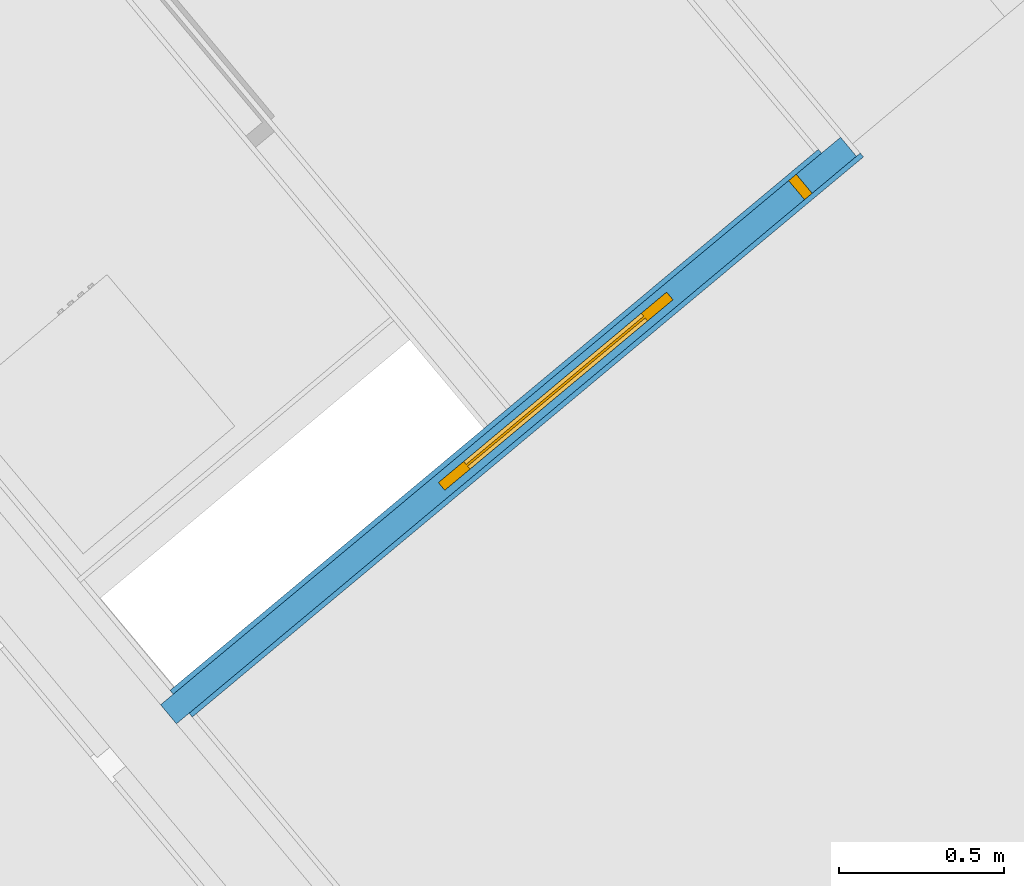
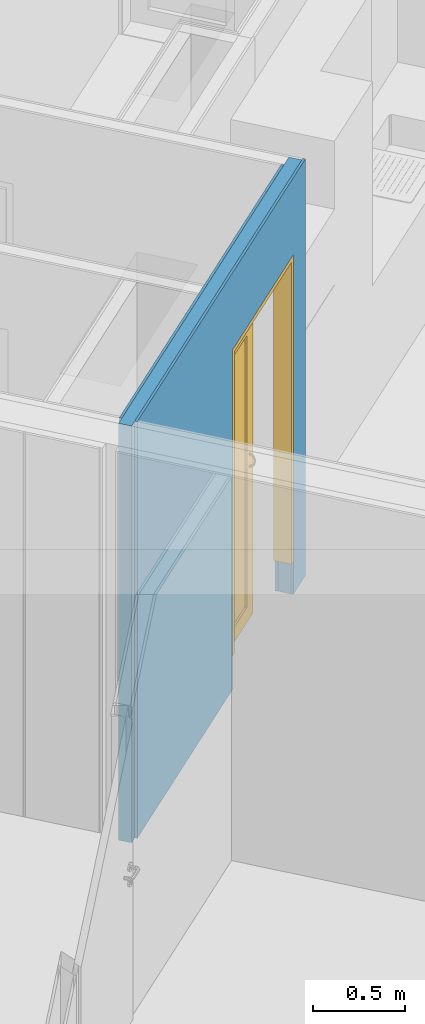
# One storey, part 11 of 50: 3 building element parts, 1 door, 1 opening, 1 element without a shape of its own.
"""IFC4 building model written with IfcOpenShell, lengths in metres."""

from ifc_helpers import new_model, entity, si_unit, converted_unit, derived_unit, direction, frame, origin_with_axes, place, context, subcontext, project, spatial, polygons, source, transform, mapped, material, type_object, element, fill, aggregate, save


model = new_model("IFC4")

# Units and contexts
model_context = context("Model", 3, precision=1e-05, world=origin_with_axes(), true_north=direction((0.0, 1.0)))
body_context = subcontext(model_context, "Body", "Model", "MODEL_VIEW")
ifc_project = project(units=[si_unit("LENGTHUNIT", "METRE"), si_unit("AREAUNIT", "SQUARE_METRE"), si_unit("VOLUMEUNIT", "CUBIC_METRE"), converted_unit("PLANEANGLEUNIT", "DEGREE", entity("IfcPlaneAngleMeasure", 0.0174532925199), si_unit("PLANEANGLEUNIT", "RADIAN"), dimensions=[0, 0, 0, 0, 0, 0, 0]), converted_unit("TIMEUNIT", "Year", entity("IfcTimeMeasure", 31556926.0), si_unit("TIMEUNIT", "SECOND"), dimensions=[0, 0, 1, 0, 0, 0, 0]), si_unit("MASSUNIT", "GRAM", prefix="KILO"), si_unit("THERMODYNAMICTEMPERATUREUNIT", "DEGREE_CELSIUS"), si_unit("LUMINOUSINTENSITYUNIT", "LUMEN"), si_unit("ENERGYUNIT", "JOULE", prefix="MEGA"), derived_unit("THERMALCONDUCTANCEUNIT", [(si_unit("POWERUNIT", "WATT"), 1), (si_unit("LENGTHUNIT", "METRE"), -1), (si_unit("THERMODYNAMICTEMPERATUREUNIT", "KELVIN"), -1)]), derived_unit("SPECIFICHEATCAPACITYUNIT", [(si_unit("ENERGYUNIT", "JOULE"), 1), (si_unit("MASSUNIT", "GRAM", prefix="KILO"), -1), (si_unit("THERMODYNAMICTEMPERATUREUNIT", "KELVIN"), -1)]), derived_unit("MASSDENSITYUNIT", [(si_unit("MASSUNIT", "GRAM", prefix="KILO"), 1), (si_unit("VOLUMEUNIT", "CUBIC_METRE"), -1)])], contexts=[model_context])

# Site, building, storey
site_placement = place(None, frame((-0.00153261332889, -0.00661245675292, 0.0), z_axis=(0.0, 0.0, 1.0), x_axis=(1.0, 0.0, 0.0)))
site = spatial("IfcSite", under=ifc_project, at=site_placement, Name="Site", CompositionType="ELEMENT")
building_placement = place(site_placement, origin_with_axes())
building = spatial("IfcBuilding", under=site, at=building_placement, Name="Building", CompositionType="ELEMENT")
storey_placement = place(building_placement, frame((0.0, 0.0, 2.74), z_axis=(0.0, 0.0, 1.0), x_axis=(1.0, 0.0, 0.0)))
storey = spatial("IfcBuildingStorey", under=building, at=storey_placement, Name="OG1", CompositionType="ELEMENT", Elevation=2.74)

# Door
door_type = type_object("IfcDoorType", Name="Schiebetür 02 1-Fl 26", OperationType="SLIDING_TO_RIGHT", PredefinedType="NOTDEFINED")
shared_shape = source(origin_with_axes(), body_context, "Body", "Tessellation", [
    polygons([(-0.48, 0.0, 0.0), (-0.48, 0.0, 2.03), (0.48, 0.0, 2.03), (0.48, 0.0, 0.0), (0.45, 0.0, 0.0), (0.45, 0.0, 2.0), (-0.45, 0.0, 2.0), (-0.45, 0.0, 0.0)], [[[1, 2, 3, 4, 5, 6, 7, 8]]], closed=False),
    polygons([(-0.45, -0.09, 0.0), (-0.45, -0.09, 2.0), (-0.45, -0.105, 2.0), (-0.45, -0.105, 0.0), (-0.48, -0.09, 0.0), (-0.48, -0.09, 2.0), (-0.48, -0.015, 2.0), (-0.45, -0.015, 2.0), (-0.45, 0.0, 2.0), (0.45, 0.0, 2.0), (0.45, -0.105, 2.0), (0.48, -0.105, 0.0), (0.48, -0.105, 2.03), (-0.48, -0.105, 2.03), (-0.48, -0.105, 0.0), (0.45, -0.105, 0.0), (-0.48, 0.0, 2.03), (-0.48, 0.0, 0.0), (-0.48, -0.015, 0.0), (-0.45, -0.015, 0.0), (-0.45, 0.0, 0.0), (0.48, 0.0, 2.03), (0.48, 0.0, 0.0), (0.45, 0.0, 0.0)], [[[1, 2, 3, 4]], [[2, 1, 5, 6]], [[2, 6, 7, 8, 9, 10, 11, 3]], [[12, 13, 14, 15, 4, 3, 11, 16]], [[5, 1, 4, 15]], [[6, 5, 15, 14, 17, 18, 19, 7]], [[20, 8, 7, 19]], [[8, 20, 21, 9]], [[10, 9, 21, 18, 17, 22, 23, 24]], [[24, 16, 11, 10]], [[22, 13, 12, 23]], [[17, 14, 13, 22]], [[23, 12, 16, 24]], [[20, 19, 18, 21]]], closed=True),
    polygons([(-0.48, -0.105, 0.0), (-0.48, -0.105, 2.03), (0.48, -0.105, 2.03), (0.48, -0.105, 0.0), (0.45, -0.105, 0.0), (0.45, -0.105, 2.0), (-0.45, -0.105, 2.0), (-0.45, -0.105, 0.0)], [[[1, 2, 3, 4, 5, 6, 7, 8]]], closed=False),
    polygons([(-0.94995, -0.0375, 0.1), (-0.84995, -0.0375, 0.1), (-0.84995, -0.0675, 0.1), (-0.94995, -0.0675, 0.1), (-0.94995, -0.0375, 1.8999), (-0.84995, -0.0375, 1.8999), (-0.84995, -0.0675, 1.8999), (-0.94995, -0.0675, 1.8999)], [[[1, 2, 3, 4]], [[1, 5, 6, 2]], [[2, 6, 7, 3]], [[4, 3, 7, 8]], [[5, 1, 4, 8]], [[6, 5, 8, 7]]], closed=True),
    polygons([(-0.05005, -0.0375, 1.8999), (-0.15005, -0.0375, 1.8999), (-0.15005, -0.0675, 1.8999), (-0.05005, -0.0675, 1.8999), (-0.05005, -0.0375, 0.1), (-0.15005, -0.0375, 0.1), (-0.15005, -0.0675, 0.1), (-0.05005, -0.0675, 0.1)], [[[1, 2, 3, 4]], [[1, 5, 6, 2]], [[2, 6, 7, 3]], [[4, 3, 7, 8]], [[5, 1, 4, 8]], [[6, 5, 8, 7]]], closed=True),
    polygons([(-0.05005, -0.0375, 0.0), (-0.05005, -0.0375, 0.1), (-0.05005, -0.0675, 0.1), (-0.05005, -0.0675, 0.0), (-0.94995, -0.0375, 0.0), (-0.94995, -0.0375, 0.1), (-0.84995, -0.0375, 0.1), (-0.15005, -0.0375, 0.1), (-0.15005, -0.0675, 0.1), (-0.84995, -0.0675, 0.1), (-0.94995, -0.0675, 0.1), (-0.94995, -0.0675, 0.0)], [[[1, 2, 3, 4]], [[1, 5, 6, 7, 8, 2]], [[2, 8, 9, 3]], [[4, 3, 9, 10, 11, 12]], [[5, 1, 4, 12]], [[6, 5, 12, 11]], [[7, 6, 11, 10]], [[8, 7, 10, 9]]], closed=True),
    polygons([(-0.94995, -0.0375, 1.9999), (-0.94995, -0.0375, 1.8999), (-0.94995, -0.0675, 1.8999), (-0.94995, -0.0675, 1.9999), (-0.05005, -0.0375, 1.9999), (-0.05005, -0.0375, 1.8999), (-0.15005, -0.0375, 1.8999), (-0.84995, -0.0375, 1.8999), (-0.84995, -0.0675, 1.8999), (-0.15005, -0.0675, 1.8999), (-0.05005, -0.0675, 1.8999), (-0.05005, -0.0675, 1.9999)], [[[1, 2, 3, 4]], [[1, 5, 6, 7, 8, 2]], [[2, 8, 9, 3]], [[4, 3, 9, 10, 11, 12]], [[5, 1, 4, 12]], [[6, 5, 12, 11]], [[7, 6, 11, 10]], [[8, 7, 10, 9]]], closed=True),
    polygons([(-0.84995, -0.049, 0.1), (-0.15005, -0.049, 0.1), (-0.15005, -0.056, 0.1), (-0.84995, -0.056, 0.1), (-0.84995, -0.049, 1.8999), (-0.15005, -0.049, 1.8999), (-0.15005, -0.056, 1.8999), (-0.84995, -0.056, 1.8999)], [[[1, 2, 3, 4]], [[1, 5, 6, 2]], [[2, 6, 7, 3]], [[4, 3, 7, 8]], [[5, 1, 4, 8]], [[6, 5, 8, 7]]], closed=True),
    polygons([(-0.11705, -0.0825, 1.08598076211), (-0.116112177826, -0.08425, 1.08901185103), (-0.116112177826, -0.0675, 1.0935), (-0.11705, -0.0675, 1.09), (-0.11705, -0.0934807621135, 1.075), (-0.116112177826, -0.0965118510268, 1.07675), (-0.11355, -0.0855310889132, 1.09123076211), (-0.11355, -0.0675, 1.09606217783), (-0.11005, -0.0675, 1.097), (-0.10655, -0.0675, 1.09606217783), (-0.103987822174, -0.0675, 1.0935), (-0.10305, -0.0675, 1.09), (-0.103987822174, -0.0675, 1.0865), (-0.10655, -0.0675, 1.08393782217), (-0.11005, -0.0675, 1.083), (-0.11355, -0.0675, 1.08393782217), (-0.116112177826, -0.0675, 1.0865), (-0.116112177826, -0.08075, 1.0829496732), (-0.11705, -0.0975, 1.06), (-0.116112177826, -0.101, 1.06), (-0.11355, -0.0987307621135, 1.07803108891), (-0.116112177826, -0.0904496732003, 1.07325), (-0.11005, -0.086, 1.09204293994), (-0.10655, -0.0855310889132, 1.09123076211), (-0.103987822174, -0.08425, 1.08901185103), (-0.10305, -0.0825, 1.08598076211), (-0.103987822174, -0.08075, 1.0829496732), (-0.10655, -0.0794689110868, 1.08073076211), (-0.11005, -0.079, 1.07991858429), (-0.11355, -0.0794689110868, 1.08073076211), (-0.116112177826, -0.094, 1.06), (-0.11355, -0.0914378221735, 1.06), (-0.11005, -0.0905, 1.06), (-0.10655, -0.0914378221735, 1.06), (-0.103987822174, -0.094, 1.06), (-0.10305, -0.0975, 1.06), (-0.103987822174, -0.101, 1.06), (-0.10655, -0.103562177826, 1.06), (-0.11005, -0.1045, 1.06), (-0.11355, -0.103562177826, 1.06), (-0.11005, -0.09954293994, 1.0785), (-0.11355, -0.0882307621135, 1.07196891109), (-0.10655, -0.0987307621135, 1.07803108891), (-0.103987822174, -0.0965118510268, 1.07675), (-0.10305, -0.0934807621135, 1.075), (-0.103987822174, -0.0904496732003, 1.07325), (-0.10655, -0.0882307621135, 1.07196891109), (-0.11005, -0.087418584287, 1.0715)], [[[1, 2, 3, 4]], [[5, 6, 2, 1]], [[2, 7, 8, 3]], [[4, 3, 8, 9, 10, 11, 12, 13, 14, 15, 16, 17]], [[18, 1, 4, 17]], [[19, 20, 6, 5]], [[6, 21, 7, 2]], [[22, 5, 1, 18]], [[7, 23, 9, 8]], [[23, 24, 10, 9]], [[24, 25, 11, 10]], [[25, 26, 12, 11]], [[26, 27, 13, 12]], [[27, 28, 14, 13]], [[28, 29, 15, 14]], [[29, 30, 16, 15]], [[30, 18, 17, 16]], [[19, 31, 32, 33, 34, 35, 36, 37, 38, 39, 40, 20]], [[20, 40, 21, 6]], [[31, 19, 5, 22]], [[21, 41, 23, 7]], [[42, 22, 18, 30]], [[41, 43, 24, 23]], [[43, 44, 25, 24]], [[44, 45, 26, 25]], [[45, 46, 27, 26]], [[46, 47, 28, 27]], [[47, 48, 29, 28]], [[48, 42, 30, 29]], [[32, 31, 22, 42]], [[33, 32, 42, 48]], [[34, 33, 48, 47]], [[35, 34, 47, 46]], [[36, 35, 46, 45]], [[37, 36, 45, 44]], [[38, 37, 44, 43]], [[39, 38, 43, 41]], [[40, 39, 41, 21]]], closed=True),
    polygons([(-0.10305, -0.0825, 1.01401923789), (-0.103987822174, -0.08425, 1.01098814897), (-0.103987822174, -0.0675, 1.0065), (-0.10305, -0.0675, 1.01), (-0.10305, -0.0934807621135, 1.025), (-0.103987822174, -0.0965118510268, 1.02325), (-0.10655, -0.0855310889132, 1.00876923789), (-0.10655, -0.0675, 1.00393782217), (-0.11005, -0.0675, 1.003), (-0.11355, -0.0675, 1.00393782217), (-0.116112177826, -0.0675, 1.0065), (-0.11705, -0.0675, 1.01), (-0.116112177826, -0.0675, 1.0135), (-0.11355, -0.0675, 1.01606217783), (-0.11005, -0.0675, 1.017), (-0.10655, -0.0675, 1.01606217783), (-0.103987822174, -0.0675, 1.0135), (-0.103987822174, -0.08075, 1.0170503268), (-0.10305, -0.0975, 1.04), (-0.103987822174, -0.101, 1.04), (-0.10655, -0.0987307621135, 1.02196891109), (-0.103987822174, -0.0904496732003, 1.02675), (-0.11005, -0.086, 1.00795706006), (-0.11355, -0.0855310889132, 1.00876923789), (-0.116112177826, -0.08425, 1.01098814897), (-0.11705, -0.0825, 1.01401923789), (-0.116112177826, -0.08075, 1.0170503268), (-0.11355, -0.0794689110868, 1.01926923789), (-0.11005, -0.079, 1.02008141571), (-0.10655, -0.0794689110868, 1.01926923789), (-0.103987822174, -0.094, 1.04), (-0.10655, -0.0914378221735, 1.04), (-0.11005, -0.0905, 1.04), (-0.11355, -0.0914378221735, 1.04), (-0.116112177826, -0.094, 1.04), (-0.11705, -0.0975, 1.04), (-0.116112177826, -0.101, 1.04), (-0.11355, -0.103562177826, 1.04), (-0.11005, -0.1045, 1.04), (-0.10655, -0.103562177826, 1.04), (-0.11005, -0.09954293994, 1.0215), (-0.10655, -0.0882307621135, 1.02803108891), (-0.11355, -0.0987307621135, 1.02196891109), (-0.116112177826, -0.0965118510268, 1.02325), (-0.11705, -0.0934807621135, 1.025), (-0.116112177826, -0.0904496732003, 1.02675), (-0.11355, -0.0882307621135, 1.02803108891), (-0.11005, -0.087418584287, 1.0285)], [[[1, 2, 3, 4]], [[5, 6, 2, 1]], [[2, 7, 8, 3]], [[4, 3, 8, 9, 10, 11, 12, 13, 14, 15, 16, 17]], [[18, 1, 4, 17]], [[19, 20, 6, 5]], [[6, 21, 7, 2]], [[22, 5, 1, 18]], [[7, 23, 9, 8]], [[23, 24, 10, 9]], [[24, 25, 11, 10]], [[25, 26, 12, 11]], [[26, 27, 13, 12]], [[27, 28, 14, 13]], [[28, 29, 15, 14]], [[29, 30, 16, 15]], [[30, 18, 17, 16]], [[19, 31, 32, 33, 34, 35, 36, 37, 38, 39, 40, 20]], [[20, 40, 21, 6]], [[31, 19, 5, 22]], [[21, 41, 23, 7]], [[42, 22, 18, 30]], [[41, 43, 24, 23]], [[43, 44, 25, 24]], [[44, 45, 26, 25]], [[45, 46, 27, 26]], [[46, 47, 28, 27]], [[47, 48, 29, 28]], [[48, 42, 30, 29]], [[32, 31, 22, 42]], [[33, 32, 42, 48]], [[34, 33, 48, 47]], [[35, 34, 47, 46]], [[36, 35, 46, 45]], [[37, 36, 45, 44]], [[38, 37, 44, 43]], [[39, 38, 43, 41]], [[40, 39, 41, 21]]], closed=True),
    polygons([(-0.11705, -0.0975, 1.04), (-0.11705, -0.0975, 1.06), (-0.116112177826, -0.094, 1.06), (-0.116112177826, -0.094, 1.04), (-0.116112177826, -0.101, 1.04), (-0.116112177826, -0.101, 1.06), (-0.11355, -0.103562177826, 1.06), (-0.11005, -0.1045, 1.06), (-0.10655, -0.103562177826, 1.06), (-0.103987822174, -0.101, 1.06), (-0.10305, -0.0975, 1.06), (-0.103987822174, -0.094, 1.06), (-0.10655, -0.0914378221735, 1.06), (-0.11005, -0.0905, 1.06), (-0.11355, -0.0914378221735, 1.06), (-0.11355, -0.0914378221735, 1.04), (-0.11005, -0.0905, 1.04), (-0.10655, -0.0914378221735, 1.04), (-0.103987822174, -0.094, 1.04), (-0.10305, -0.0975, 1.04), (-0.103987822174, -0.101, 1.04), (-0.10655, -0.103562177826, 1.04), (-0.11005, -0.1045, 1.04), (-0.11355, -0.103562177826, 1.04)], [[[1, 2, 3, 4]], [[5, 6, 2, 1]], [[2, 6, 7, 8, 9, 10, 11, 12, 13, 14, 15, 3]], [[4, 3, 15, 16]], [[1, 4, 16, 17, 18, 19, 20, 21, 22, 23, 24, 5]], [[24, 7, 6, 5]], [[23, 8, 7, 24]], [[22, 9, 8, 23]], [[21, 10, 9, 22]], [[20, 11, 10, 21]], [[19, 12, 11, 20]], [[18, 13, 12, 19]], [[17, 14, 13, 18]], [[16, 15, 14, 17]]], closed=True),
    polygons([(-0.11705, -0.0225, 1.08598076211), (-0.11705, -0.0375, 1.09), (-0.116112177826, -0.0375, 1.0935), (-0.116112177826, -0.02075, 1.08901185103), (-0.116112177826, -0.02425, 1.0829496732), (-0.116112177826, -0.0375, 1.0865), (-0.11355, -0.0375, 1.08393782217), (-0.11005, -0.0375, 1.083), (-0.10655, -0.0375, 1.08393782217), (-0.103987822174, -0.0375, 1.0865), (-0.10305, -0.0375, 1.09), (-0.103987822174, -0.0375, 1.0935), (-0.10655, -0.0375, 1.09606217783), (-0.11005, -0.0375, 1.097), (-0.11355, -0.0375, 1.09606217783), (-0.11355, -0.0194689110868, 1.09123076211), (-0.11705, -0.0115192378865, 1.075), (-0.116112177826, -0.00848814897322, 1.07675), (-0.11355, -0.0255310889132, 1.08073076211), (-0.116112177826, -0.0145503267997, 1.07325), (-0.11005, -0.026, 1.07991858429), (-0.10655, -0.0255310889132, 1.08073076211), (-0.103987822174, -0.02425, 1.0829496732), (-0.10305, -0.0225, 1.08598076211), (-0.103987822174, -0.02075, 1.08901185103), (-0.10655, -0.0194689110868, 1.09123076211), (-0.11005, -0.019, 1.09204293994), (-0.11355, -0.00626923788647, 1.07803108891), (-0.11705, -0.0075, 1.06), (-0.116112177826, -0.004, 1.06), (-0.11355, -0.0167692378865, 1.07196891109), (-0.116112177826, -0.011, 1.06), (-0.11005, -0.017581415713, 1.0715), (-0.10655, -0.0167692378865, 1.07196891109), (-0.103987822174, -0.0145503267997, 1.07325), (-0.10305, -0.0115192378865, 1.075), (-0.103987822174, -0.00848814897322, 1.07675), (-0.10655, -0.00626923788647, 1.07803108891), (-0.11005, -0.00545706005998, 1.0785), (-0.11355, -0.00143782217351, 1.06), (-0.11005, -0.0005, 1.06), (-0.10655, -0.00143782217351, 1.06), (-0.103987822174, -0.004, 1.06), (-0.10305, -0.0075, 1.06), (-0.103987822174, -0.011, 1.06), (-0.10655, -0.0135621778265, 1.06), (-0.11005, -0.0145, 1.06), (-0.11355, -0.0135621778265, 1.06)], [[[1, 2, 3, 4]], [[5, 6, 2, 1]], [[2, 6, 7, 8, 9, 10, 11, 12, 13, 14, 15, 3]], [[4, 3, 15, 16]], [[17, 1, 4, 18]], [[19, 7, 6, 5]], [[20, 5, 1, 17]], [[21, 8, 7, 19]], [[22, 9, 8, 21]], [[23, 10, 9, 22]], [[24, 11, 10, 23]], [[25, 12, 11, 24]], [[26, 13, 12, 25]], [[27, 14, 13, 26]], [[16, 15, 14, 27]], [[18, 4, 16, 28]], [[29, 17, 18, 30]], [[31, 19, 5, 20]], [[32, 20, 17, 29]], [[33, 21, 19, 31]], [[34, 22, 21, 33]], [[35, 23, 22, 34]], [[36, 24, 23, 35]], [[37, 25, 24, 36]], [[38, 26, 25, 37]], [[39, 27, 26, 38]], [[28, 16, 27, 39]], [[30, 18, 28, 40]], [[29, 30, 40, 41, 42, 43, 44, 45, 46, 47, 48, 32]], [[48, 31, 20, 32]], [[47, 33, 31, 48]], [[46, 34, 33, 47]], [[45, 35, 34, 46]], [[44, 36, 35, 45]], [[43, 37, 36, 44]], [[42, 38, 37, 43]], [[41, 39, 38, 42]], [[40, 28, 39, 41]]], closed=True),
    polygons([(-0.10305, -0.0225, 1.01401923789), (-0.10305, -0.0375, 1.01), (-0.103987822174, -0.0375, 1.0065), (-0.103987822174, -0.02075, 1.01098814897), (-0.103987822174, -0.02425, 1.0170503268), (-0.103987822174, -0.0375, 1.0135), (-0.10655, -0.0375, 1.01606217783), (-0.11005, -0.0375, 1.017), (-0.11355, -0.0375, 1.01606217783), (-0.116112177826, -0.0375, 1.0135), (-0.11705, -0.0375, 1.01), (-0.116112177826, -0.0375, 1.0065), (-0.11355, -0.0375, 1.00393782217), (-0.11005, -0.0375, 1.003), (-0.10655, -0.0375, 1.00393782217), (-0.10655, -0.0194689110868, 1.00876923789), (-0.10305, -0.0115192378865, 1.025), (-0.103987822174, -0.00848814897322, 1.02325), (-0.10655, -0.0255310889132, 1.01926923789), (-0.103987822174, -0.0145503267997, 1.02675), (-0.11005, -0.026, 1.02008141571), (-0.11355, -0.0255310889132, 1.01926923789), (-0.116112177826, -0.02425, 1.0170503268), (-0.11705, -0.0225, 1.01401923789), (-0.116112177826, -0.02075, 1.01098814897), (-0.11355, -0.0194689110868, 1.00876923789), (-0.11005, -0.019, 1.00795706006), (-0.10655, -0.00626923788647, 1.02196891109), (-0.10305, -0.0075, 1.04), (-0.103987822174, -0.004, 1.04), (-0.10655, -0.0167692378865, 1.02803108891), (-0.103987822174, -0.011, 1.04), (-0.11005, -0.017581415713, 1.0285), (-0.11355, -0.0167692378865, 1.02803108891), (-0.116112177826, -0.0145503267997, 1.02675), (-0.11705, -0.0115192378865, 1.025), (-0.116112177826, -0.00848814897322, 1.02325), (-0.11355, -0.00626923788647, 1.02196891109), (-0.11005, -0.00545706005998, 1.0215), (-0.10655, -0.00143782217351, 1.04), (-0.11005, -0.0005, 1.04), (-0.11355, -0.00143782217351, 1.04), (-0.116112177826, -0.004, 1.04), (-0.11705, -0.0075, 1.04), (-0.116112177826, -0.011, 1.04), (-0.11355, -0.0135621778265, 1.04), (-0.11005, -0.0145, 1.04), (-0.10655, -0.0135621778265, 1.04)], [[[1, 2, 3, 4]], [[5, 6, 2, 1]], [[2, 6, 7, 8, 9, 10, 11, 12, 13, 14, 15, 3]], [[4, 3, 15, 16]], [[17, 1, 4, 18]], [[19, 7, 6, 5]], [[20, 5, 1, 17]], [[21, 8, 7, 19]], [[22, 9, 8, 21]], [[23, 10, 9, 22]], [[24, 11, 10, 23]], [[25, 12, 11, 24]], [[26, 13, 12, 25]], [[27, 14, 13, 26]], [[16, 15, 14, 27]], [[18, 4, 16, 28]], [[29, 17, 18, 30]], [[31, 19, 5, 20]], [[32, 20, 17, 29]], [[33, 21, 19, 31]], [[34, 22, 21, 33]], [[35, 23, 22, 34]], [[36, 24, 23, 35]], [[37, 25, 24, 36]], [[38, 26, 25, 37]], [[39, 27, 26, 38]], [[28, 16, 27, 39]], [[30, 18, 28, 40]], [[29, 30, 40, 41, 42, 43, 44, 45, 46, 47, 48, 32]], [[48, 31, 20, 32]], [[47, 33, 31, 48]], [[46, 34, 33, 47]], [[45, 35, 34, 46]], [[44, 36, 35, 45]], [[43, 37, 36, 44]], [[42, 38, 37, 43]], [[41, 39, 38, 42]], [[40, 28, 39, 41]]], closed=True),
    polygons([(-0.11705, -0.0075, 1.04), (-0.116112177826, -0.011, 1.04), (-0.116112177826, -0.011, 1.06), (-0.11705, -0.0075, 1.06), (-0.116112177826, -0.004, 1.04), (-0.11355, -0.00143782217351, 1.04), (-0.11005, -0.0005, 1.04), (-0.10655, -0.00143782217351, 1.04), (-0.103987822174, -0.004, 1.04), (-0.10305, -0.0075, 1.04), (-0.103987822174, -0.011, 1.04), (-0.10655, -0.0135621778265, 1.04), (-0.11005, -0.0145, 1.04), (-0.11355, -0.0135621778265, 1.04), (-0.11355, -0.0135621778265, 1.06), (-0.11005, -0.0145, 1.06), (-0.10655, -0.0135621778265, 1.06), (-0.103987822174, -0.011, 1.06), (-0.10305, -0.0075, 1.06), (-0.103987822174, -0.004, 1.06), (-0.10655, -0.00143782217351, 1.06), (-0.11005, -0.0005, 1.06), (-0.11355, -0.00143782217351, 1.06), (-0.116112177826, -0.004, 1.06)], [[[1, 2, 3, 4]], [[1, 5, 6, 7, 8, 9, 10, 11, 12, 13, 14, 2]], [[2, 14, 15, 3]], [[4, 3, 15, 16, 17, 18, 19, 20, 21, 22, 23, 24]], [[5, 1, 4, 24]], [[6, 5, 24, 23]], [[7, 6, 23, 22]], [[8, 7, 22, 21]], [[9, 8, 21, 20]], [[10, 9, 20, 19]], [[11, 10, 19, 18]], [[12, 11, 18, 17]], [[13, 12, 17, 16]], [[14, 13, 16, 15]]], closed=True),
])
wall_placement = place(storey_placement, frame((4.75634479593, 20.7201278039, 0.0), z_axis=(0.0, 0.0, 1.0), x_axis=(0.767768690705, 0.640727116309, 0.0)))
opening_placement = place(wall_placement, frame((2.0266659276, 0.0, 0.22), z_axis=(0.0, 0.0, 1.0), x_axis=(1.0, 0.0, 0.0)))
door_placement = place(opening_placement, frame((-0.45, 0.0, 0.0), z_axis=(0.0, 0.0, 1.0), x_axis=(1.0, 0.0, 0.0)))
door = element("IfcDoor", 1, at=door_placement, inside=storey, type_object=door_type, Name="Tür-001", OverallHeight=2.25, OverallWidth=0.96, PredefinedType="NOTDEFINED", context=body_context, shape_type="MappedRepresentation", body=[
    mapped(shared_shape, transform((0.45, 0.105, 0.0))),
])

# Wall, opening
wall_type = type_object("IfcWallType", Name="IW LB 01 Leichtbautrennwand einfach 10,5 cm 105", PredefinedType="NOTDEFINED")
wall = element("IfcWall", 2, at=wall_placement, inside=storey, type_object=wall_type, Name="Wand-012", PredefinedType="NOTDEFINED")
opening = element("IfcOpeningElement", 3, at=opening_placement, cuts=wall, Name="Tür-001", context=body_context, identifier="Reference", shape_type="Tessellation", body=[
    polygons([(-0.48, -1.32747549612, -0.22), (-0.48, -1.32747549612, 2.03), (-0.48, 1.43247549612, 2.03), (-0.48, 1.43247549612, -0.22), (-0.48, 0.09, 2.0), (-0.48, 0.015, 2.0), (-0.48, 0.015, 0.0), (-0.48, 0.09, 0.0), (0.48, -1.32747549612, -0.22), (0.48, -1.32747549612, 2.03), (0.48, 1.43247549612, 2.03), (0.48, 1.43247549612, -0.22), (-1.44, 0.09, 2.0), (-1.44, 0.015, 2.0), (-1.44, 0.015, 0.0), (-1.44, 0.09, 0.0)], [[[1, 2, 3, 4], [5, 6, 7, 8]], [[1, 9, 10, 2]], [[2, 10, 11, 3]], [[11, 12, 4, 3]], [[9, 1, 4, 12]], [[6, 5, 13, 14]], [[7, 6, 14, 15]], [[8, 7, 15, 16]], [[5, 8, 16, 13]], [[10, 9, 12, 11]], [[14, 13, 16, 15]]], closed=True),
])

fill(opening, door)

# Building element part
ifc_material_1 = material(Name="Gipskarton")
building_element_part_1_placement = place(wall_placement, origin_with_axes())
building_element_part_1 = element("IfcBuildingElementPart", 4, at=building_element_part_1_placement, material=ifc_material_1, Name="Gipskarton", PredefinedType="NOTDEFINED", context=body_context, shape_type="Tessellation", body=[
    polygons([(1.5466659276, 0.09, 0.22), (1.5466659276, 0.09, 2.25), (2.5066659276, 0.09, 2.25), (2.5066659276, 0.09, 0.22), (2.50666590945, 0.09, 0.0), (2.6064142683, 0.09, 0.0), (2.6064142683, 0.09, 2.76), (0.0499861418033, 0.09, 2.76), (0.0499861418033, 0.09, 0.0), (1.5466659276, 0.09, 0.0), (1.5466659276, 0.104999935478, 0.22), (1.5466659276, 0.104999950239, 2.25), (2.5066659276, 0.104999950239, 2.25), (2.5066659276, 0.104999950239, 0.22), (2.5066659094, 0.104999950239, 0.0), (2.60640484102, 0.105, 0.0), (2.60640484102, 0.105, 2.76), (0.0499838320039, 0.105, 2.76), (0.0499838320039, 0.105, 0.0), (1.5466659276, 0.104999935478, 0.0)], [[[1, 2, 3, 4, 5, 6, 7, 8, 9, 10]], [[2, 1, 11, 12]], [[3, 2, 12, 13]], [[4, 3, 13, 14]], [[4, 14, 15, 5]], [[15, 16, 6, 5]], [[16, 17, 7, 6]], [[17, 18, 8, 7]], [[19, 9, 8, 18]], [[10, 9, 19, 20]], [[11, 1, 10, 20]], [[12, 11, 20, 19, 18, 17, 16, 15, 14, 13]]], closed=True),
])

ifc_material_2 = material(Name="Mineralwolle weich")
building_element_part_2_placement = place(wall_placement, origin_with_axes())
building_element_part_2 = element("IfcBuildingElementPart", 5, at=building_element_part_2_placement, material=ifc_material_2, Name="Mineralwolle weich", PredefinedType="NOTDEFINED", context=body_context, shape_type="Tessellation", body=[
    polygons([(0.586665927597, 0.015, 0.22), (0.586665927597, 0.015, 2.22), (1.5466659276, 0.015, 2.22), (1.5466659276, 0.015, 2.25), (2.5066659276, 0.015, 2.25), (2.5066659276, 0.015, 0.22), (2.5066659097, 0.015, 0.0), (2.68146141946, 0.015, 0.0), (2.68146141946, 0.015, 2.76), (0.0, 0.015, 2.76), (0.0, 0.015, 0.0), (1.5466659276, 0.015, 0.0), (1.5466659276, 0.015, 0.22), (0.586665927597, 0.09, 0.22), (0.586665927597, 0.09, 2.22), (1.5466659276, 0.09, 2.22), (1.5466659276, 0.09, 2.25), (2.5066659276, 0.09, 2.25), (2.5066659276, 0.09, 0.22), (2.50666590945, 0.09, 0.0), (2.68141428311, 0.09, 0.0), (2.68141428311, 0.09, 2.76), (0.0, 0.09, 2.76), (0.0, 0.09, 0.0), (1.5466659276, 0.09, 0.0), (1.5466659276, 0.09, 0.22)], [[[1, 2, 3, 4, 5, 6, 7, 8, 9, 10, 11, 12, 13]], [[2, 1, 14, 15]], [[16, 3, 2, 15]], [[3, 16, 17, 4]], [[4, 17, 18, 5]], [[5, 18, 19, 6]], [[19, 20, 7, 6]], [[21, 8, 7, 20]], [[22, 9, 8, 21]], [[23, 10, 9, 22]], [[11, 10, 23, 24]], [[11, 24, 25, 12]], [[26, 13, 12, 25]], [[1, 13, 26, 14]], [[14, 26, 25, 24, 23, 22, 21, 20, 19, 18, 17, 16, 15]]], closed=True),
])

building_element_part_3_placement = place(wall_placement, origin_with_axes())
building_element_part_3 = element("IfcBuildingElementPart", 6, at=building_element_part_3_placement, material=ifc_material_1, Name="Gipskarton", PredefinedType="NOTDEFINED", context=body_context, shape_type="Tessellation", body=[
    polygons([(1.5466659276, 0.0, 0.22), (1.5466659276, 0.0, 2.25), (2.5066659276, 0.0, 2.25), (2.5066659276, 0.0, 0.22), (2.50666590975, 0.0, 0.0), (2.6964708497, 0.0, 0.0), (2.6964708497, 0.0, 2.76), (0.0500000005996, 0.0, 2.76), (0.0500000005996, 0.0, 0.0), (1.5466659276, 0.0, 0.0), (1.5466659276, 0.015, 0.22), (1.5466659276, 0.015, 2.25), (2.5066659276, 0.015, 2.25), (2.5066659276, 0.015, 0.22), (2.5066659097, 0.015, 0.0), (2.69646142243, 0.015, 0.0), (2.69646142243, 0.015, 2.76), (0.0499976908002, 0.015, 2.76), (0.0499976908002, 0.015, 0.0), (1.5466659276, 0.015, 0.0)], [[[1, 2, 3, 4, 5, 6, 7, 8, 9, 10]], [[2, 1, 11, 12]], [[3, 2, 12, 13]], [[4, 3, 13, 14]], [[4, 14, 15, 5]], [[15, 16, 6, 5]], [[16, 17, 7, 6]], [[17, 18, 8, 7]], [[19, 9, 8, 18]], [[10, 9, 19, 20]], [[11, 1, 10, 20]], [[12, 11, 20, 19, 18, 17, 16, 15, 14, 13]]], closed=True),
])

aggregate(wall, [building_element_part_1, building_element_part_2, building_element_part_3])

save(model, "model.ifc")
